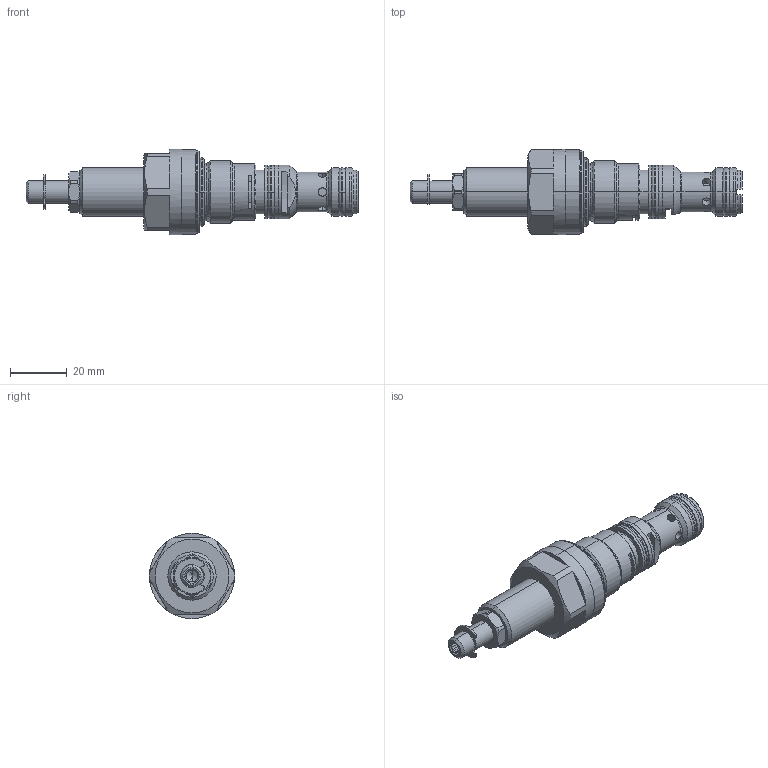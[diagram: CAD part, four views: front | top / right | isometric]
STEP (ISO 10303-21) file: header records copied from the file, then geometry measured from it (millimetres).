
FILE_DESCRIPTION (( 'STEP AP214' ), '1' );
FILE_NAME ('USSPM22.STEP', '2017-03-23T06:53:57', ( '' ), ( '' ), 'SwSTEP 2.0', 'SolidWorks 2016', '' );
FILE_SCHEMA (( 'AUTOMOTIVE_DESIGN' ));
Length unit declared in the file: millimetre
Products named in the file (1): USSPM22
Bounding box: 117 x 30 x 30 mm (x, y, z)
Volume: 33271.4 mm3; surface area: 11848.9 mm2
Topology: 7 solids, 8 shells, 306 faces, 753 edges, 476 vertices
Faces by surface type: cylinder 105, plane 96, cone 45, torus 36, bspline 24
Entity records: 13327 total; most frequent: CARTESIAN_POINT 2659, DIRECTION 1588, ORIENTED_EDGE 1498, EDGE_CURVE 749, AXIS2_PLACEMENT_3D 683, VERTEX_POINT 476, CIRCLE 400, EDGE_LOOP 333
